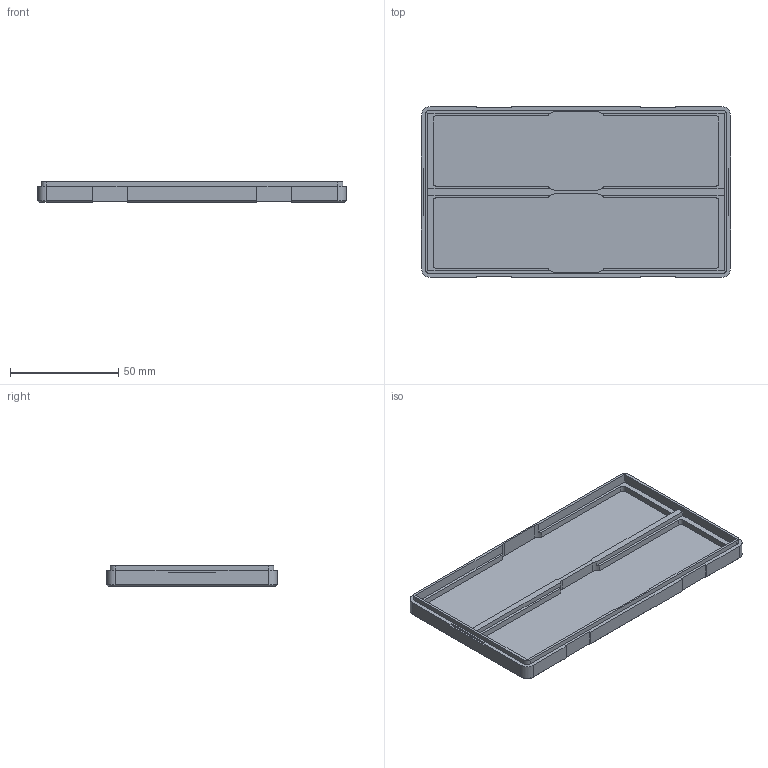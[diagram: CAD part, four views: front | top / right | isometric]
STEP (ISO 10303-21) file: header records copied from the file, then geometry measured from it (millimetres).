
FILE_DESCRIPTION(('Open CASCADE Model'),'2;1');
FILE_NAME('case_base','2026-11-19T07:27:34',('Author'),('Open CASCADE'), 'Open CASCADE STEP processor 8.0','build123d','Unknown');
FILE_SCHEMA(('AUTOMOTIVE_DESIGN { 1 0 10303 214 1 1 1 1 }'));
Length unit declared in the file: millimetre
Products named in the file (1): case_base
Bounding box: 143 x 79 x 9.6 mm (x, y, z)
Volume: 36941.8 mm3; surface area: 30857.3 mm2
Topology: 1 solids, 1 shells, 116 faces, 328 edges, 216 vertices
Faces by surface type: plane 88, cylinder 24, cone 4
Entity records: 7832 total; most frequent: CARTESIAN_POINT 1649, DIRECTION 1036, ORIENTED_EDGE 656, PCURVE 656, DEFINITIONAL_REPRESENTATION 656, LINE 644, VECTOR 644, EDGE_CURVE 328
